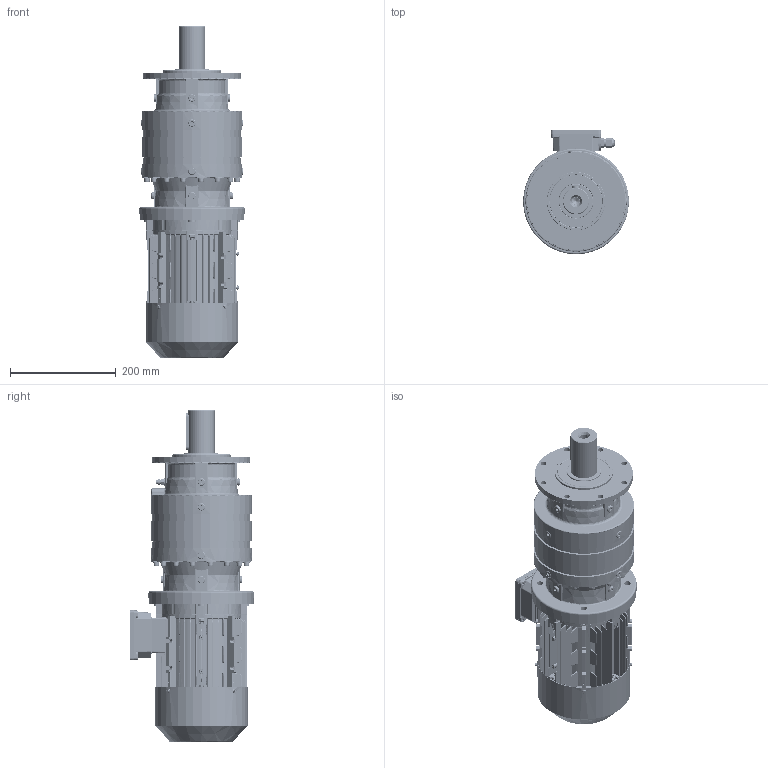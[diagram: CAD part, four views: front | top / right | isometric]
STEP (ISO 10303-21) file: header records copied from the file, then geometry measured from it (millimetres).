
FILE_DESCRIPTION (( 'STEP AP203' ), '1' );
FILE_NAME ('PVL-1102L-MX90S-4.STEP', '2019-05-17T07:35:35', ( '' ), ( '' ), 'SwSTEP 2.0', 'SolidWorks 2012', '' );
FILE_SCHEMA (( 'CONFIG_CONTROL_DESIGN' ));
Products named in the file (33): spring lock washers--normal type gb_GB_FASTENER_WASHER_SW 6_2; cross recessed pan head tapping screws gb_GB_CROSS_SCREWS_TYPE128 ST4.2X9.5 H C-N_2; hex nuts, style 1-grades ab gb_GB_FASTENER_NUT_SNAB1 M6-N_2; hexagon flange head tapping screws gb_GB_SQUARE_AND_HEXAGON_TYPE137 ST3.5X9.5 F-N_2; IE3 90S fan cover_2; IE3 90S terminal box_2; IE3 90S terminal box cover_2; plain parallel keys_GB_CONNECTING_PIECE_KEYS_CSK 8X40_2; IE3 90S flangeB5; deep groove ball bearings gb_Rolling bearings 6205 GB 276-94_2; IE3 90S rotor_2; IE3 90S fan_2; IE3 90S casing_2; FL1A; PNL_1102L_0_0_A09_B5_ML7A_FL1A_0_0_0_0_0_0_0_0_0_0_0_M1; EK1102L; P11; 1190B5; ML7A; PVL-1102L-MX90S-4; hexagon socket head cap screws gb_GB_FASTENER_SCREWS_HSHCS M6X30-N_2; cross recessed pan head screws gb_GB_CROSS_SCREWS_TYPE1 M4X6-6  H type-N; MX3-90S_B5; hexagon socket head cap screws gb_GB_FASTENER_SCREWS_HSHCS M6X25-N_1; IE3 90S  oil seal_2; circlips for shaft--type b gb_GB_CONNECTING_PIECE_RINGS_CSB 20_2; hexagon socket head cap screws gb_GB_FASTENER_SCREWS_HSHCS M6X40-N; IE3 90S flange_2; IE3 90L cable glandsM16_2; cross recessed pan head screws gb_GB_CROSS_SCREWS_TYPE1 M5X10-10  H type-N_2; hexagon head bolts-full thread gb_GB_FASTENER_BOLT_STBAB A M4X16-N_2; cross recessed pan head screws gb_GB_CROSS_SCREWS_TYPE1 M5X20-20  H type-N_2; IE3 90S connection board_2
Assembly tree (68 placements, depth 3):
  PVL-1102L-MX90S-4
    PNL_1102L_0_0_A09_B5_ML7A_FL1A_0_0_0_0_0_0_0_0_0_0_0_M1
      P11
      1190B5
      ML7A
      EK1102L
      FL1A
    MX3-90S_B5
      IE3 90S casing_2
      IE3 90S flangeB5
      IE3 90S rotor_2
      deep groove ball bearings gb_Rolling bearings 6205 GB 276-94_2  x2
      IE3 90S fan_2
      IE3 90S fan cover_2
      plain parallel keys_GB_CONNECTING_PIECE_KEYS_CSK 8X40_2
      IE3 90S terminal box_2
      IE3 90S terminal box cover_2
      spring lock washers--normal type gb_GB_FASTENER_WASHER_SW 6_2  x8
      hex nuts, style 1-grades ab gb_GB_FASTENER_NUT_SNAB1 M6-N_2  x7
      cross recessed pan head tapping screws gb_GB_CROSS_SCREWS_TYPE128 ST4.2X9.5 H C-N_2  x4
      hexagon flange head tapping screws gb_GB_SQUARE_AND_HEXAGON_TYPE137 ST3.5X9.5 F-N_2  x4
      IE3 90S connection board_2
      hexagon head bolts-full thread gb_GB_FASTENER_BOLT_STBAB A M4X16-N_2  x6
      cross recessed pan head screws gb_GB_CROSS_SCREWS_TYPE1 M5X20-20  H type-N_2  x2
      cross recessed pan head screws gb_GB_CROSS_SCREWS_TYPE1 M5X10-10  H type-N_2  x4
      IE3 90L cable glandsM16_2  x2
      circlips for shaft--type b gb_GB_CONNECTING_PIECE_RINGS_CSB 20_2
      IE3 90S  oil seal_2
      IE3 90S flange_2
      hexagon socket head cap screws gb_GB_FASTENER_SCREWS_HSHCS M6X40-N  x3
      hexagon socket head cap screws gb_GB_FASTENER_SCREWS_HSHCS M6X25-N_1
      hexagon socket head cap screws gb_GB_FASTENER_SCREWS_HSHCS M6X30-N_2  x4
      cross recessed pan head screws gb_GB_CROSS_SCREWS_TYPE1 M4X6-6  H type-N  x2
Bounding box: 200 x 235.5 x 627 mm (x, y, z)
Volume: 7721975.5 mm3; surface area: 1311643 mm2
Topology: 70 solids, 70 shells, 6476 faces, 16591 edges, 10293 vertices
Faces by surface type: plane 2448, cylinder 1885, bspline 1383, cone 528, torus 151, sphere 81
Entity records: 226670 total; most frequent: CARTESIAN_POINT 96501, ORIENTED_EDGE 28460, DIRECTION 23028, EDGE_CURVE 14230, VERTEX_POINT 8906, AXIS2_PLACEMENT_3D 8381, LINE 6266, VECTOR 6266
